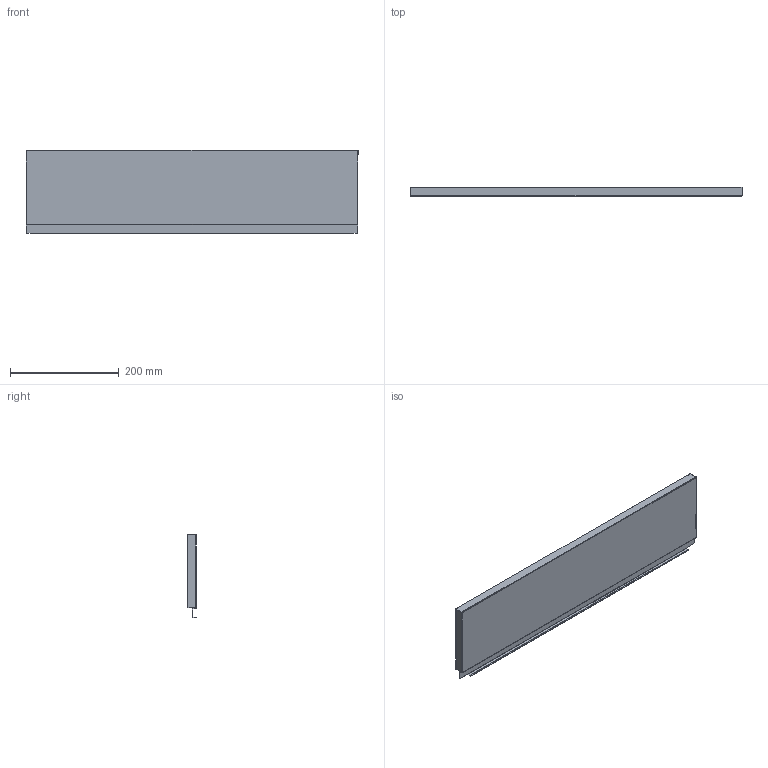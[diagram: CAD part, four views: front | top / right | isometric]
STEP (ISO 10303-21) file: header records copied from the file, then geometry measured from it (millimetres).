
FILE_DESCRIPTION (( 'STEP AP214' ), '1' );
FILE_NAME ('_STRW_H154_KAB_700.step', '2010-08-24T14:40:36', ( 'grass' ), ( '' ), 'SwSTEP 2.0', 'SolidWorks 2009', '' );
FILE_SCHEMA (( 'AUTOMOTIVE_DESIGN' ));
Length unit declared in the file: millimetre
Products named in the file (1): _STRW_H154_KAB_700
Bounding box: 610 x 17 x 154.14 mm (x, y, z)
Volume: 92400.5 mm3; surface area: 232345.5 mm2
Topology: 1 solids, 1 shells, 76 faces, 214 edges, 140 vertices
Faces by surface type: plane 54, cylinder 22
Entity records: 2472 total; most frequent: CARTESIAN_POINT 431, ORIENTED_EDGE 428, DIRECTION 412, EDGE_CURVE 214, LINE 170, VECTOR 170, VERTEX_POINT 140, AXIS2_PLACEMENT_3D 121
